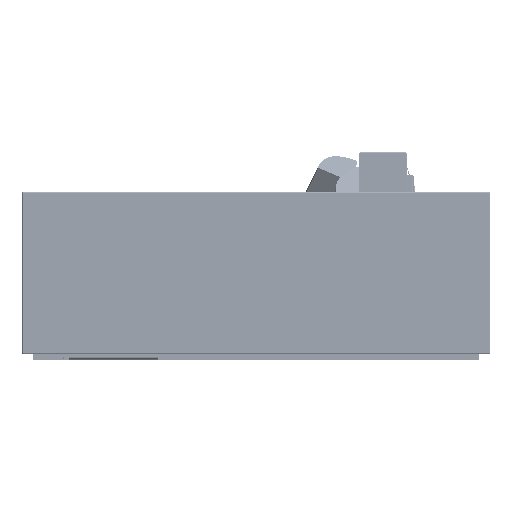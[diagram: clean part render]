
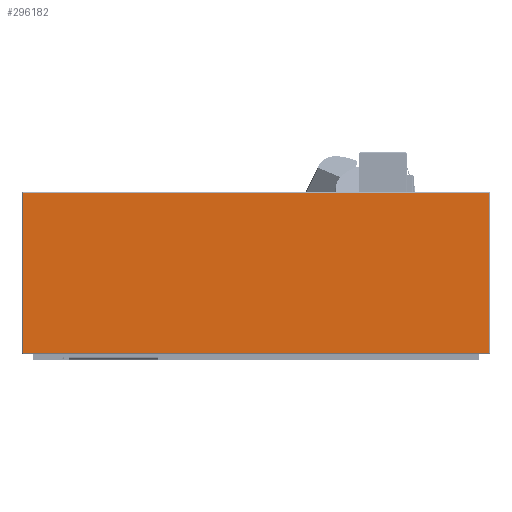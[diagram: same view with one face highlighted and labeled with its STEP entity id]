
A CAD part, left-side view. The second image highlights one B-rep face of the part: STEP entity #296182.
In plain terms, the highlighted planar face has unit normal (-1, 0, 0) as drawn and (1, 0, 0) by its records, which use the part's own axes.
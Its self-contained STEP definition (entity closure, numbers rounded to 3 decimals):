
#7968 = LINE ( 'NONE', #153882, #151843 ) ;
#16627 = VECTOR ( 'NONE', #126656, 1000. ) ;
#29497 = FACE_OUTER_BOUND ( 'NONE', #86690, .T. ) ;
#31200 = DIRECTION ( 'NONE',  ( 0., 0., -1. ) ) ;
#34083 = PLANE ( 'NONE',  #141981 ) ;
#38815 = VERTEX_POINT ( 'NONE', #135926 ) ;
#63782 = LINE ( 'NONE', #158556, #221289 ) ;
#72752 = CARTESIAN_POINT ( 'NONE',  ( 1386.962, 1172.685, 982.831 ) ) ;
#84200 = DIRECTION ( 'NONE',  ( 0., 1., 0. ) ) ;
#86690 = EDGE_LOOP ( 'NONE', ( #95720, #285972, #132635, #136066 ) ) ;
#87403 = VERTEX_POINT ( 'NONE', #114296 ) ;
#95720 = ORIENTED_EDGE ( 'NONE', *, *, #209696, .T. ) ;
#102492 = VECTOR ( 'NONE', #84200, 1000. ) ;
#103345 = LINE ( 'NONE', #177913, #16627 ) ;
#114026 = EDGE_CURVE ( 'NONE', #38815, #295659, #7968, .T. ) ;
#114296 = CARTESIAN_POINT ( 'NONE',  ( 1386.962, 1172.685, 1196.831 ) ) ;
#124249 = DIRECTION ( 'NONE',  ( 0., 0., 1. ) ) ;
#126656 = DIRECTION ( 'NONE',  ( 0., 0., 1. ) ) ;
#132635 = ORIENTED_EDGE ( 'NONE', *, *, #296851, .T. ) ;
#135926 = CARTESIAN_POINT ( 'NONE',  ( 1386.962, 549.685, 1196.831 ) ) ;
#136066 = ORIENTED_EDGE ( 'NONE', *, *, #137052, .T. ) ;
#137052 = EDGE_CURVE ( 'NONE', #266647, #87403, #103345, .T. ) ;
#141981 = AXIS2_PLACEMENT_3D ( 'NONE', #173964, #296605, #124249 ) ;
#151843 = VECTOR ( 'NONE', #31200, 1000. ) ;
#153882 = CARTESIAN_POINT ( 'NONE',  ( 1386.962, 549.685, 1089.831 ) ) ;
#158556 = CARTESIAN_POINT ( 'NONE',  ( 1386.962, 547.685, 1196.831 ) ) ;
#173964 = CARTESIAN_POINT ( 'NONE',  ( 1386.962, 861.185, 1089.831 ) ) ;
#177913 = CARTESIAN_POINT ( 'NONE',  ( 1386.962, 1172.685, 1089.831 ) ) ;
#191584 = CARTESIAN_POINT ( 'NONE',  ( 1386.962, 549.685, 982.831 ) ) ;
#209696 = EDGE_CURVE ( 'NONE', #87403, #38815, #63782, .T. ) ;
#221289 = VECTOR ( 'NONE', #253298, 1000. ) ;
#253298 = DIRECTION ( 'NONE',  ( 0., -1., 0. ) ) ;
#266647 = VERTEX_POINT ( 'NONE', #72752 ) ;
#283637 = CARTESIAN_POINT ( 'NONE',  ( 1386.962, 861.185, 982.831 ) ) ;
#285972 = ORIENTED_EDGE ( 'NONE', *, *, #114026, .T. ) ;
#295659 = VERTEX_POINT ( 'NONE', #191584 ) ;
#296182 = ADVANCED_FACE ( 'NONE', ( #29497 ), #34083, .T. ) ;
#296605 = DIRECTION ( 'NONE',  ( 1., 0., 0. ) ) ;
#296851 = EDGE_CURVE ( 'NONE', #295659, #266647, #305387, .T. ) ;
#305387 = LINE ( 'NONE', #283637, #102492 ) ;
